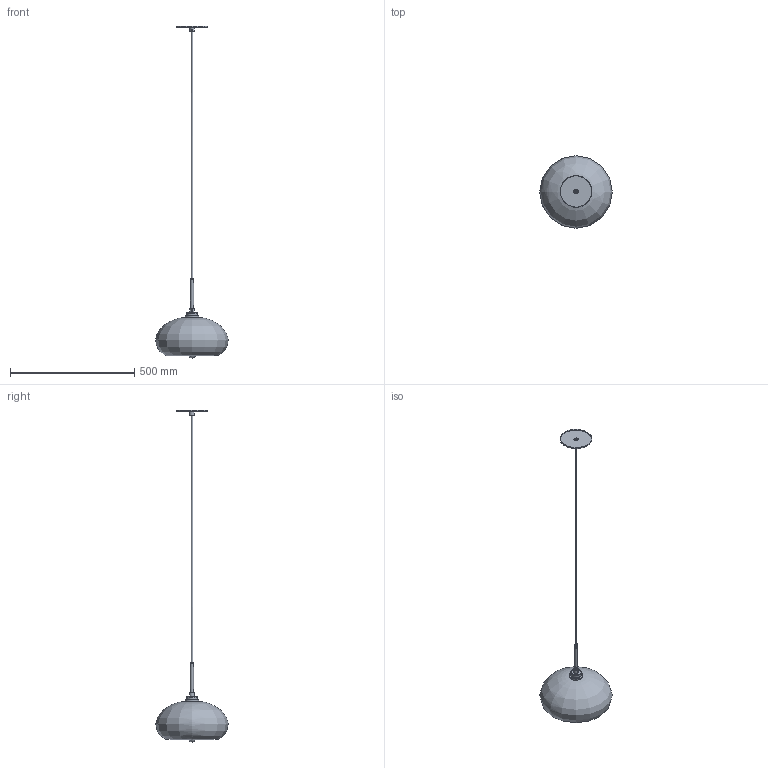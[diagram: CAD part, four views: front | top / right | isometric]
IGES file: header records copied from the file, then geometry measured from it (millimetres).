
Global section: file name: Niche - Aurora Pendant; native system: unknown; preprocessor: unknown; author: unknown; organization: unknown; date: 20220927.152848; units: inch
Bounding box: 291.91 x 291.79 x 1334.94 mm (x, y, z)
Volume: 931750.4 mm3; surface area: 507868.5 mm2
Topology: 11 solids, 11 shells, 131 faces, 320 edges, 215 vertices
Faces by surface type: bspline 131
